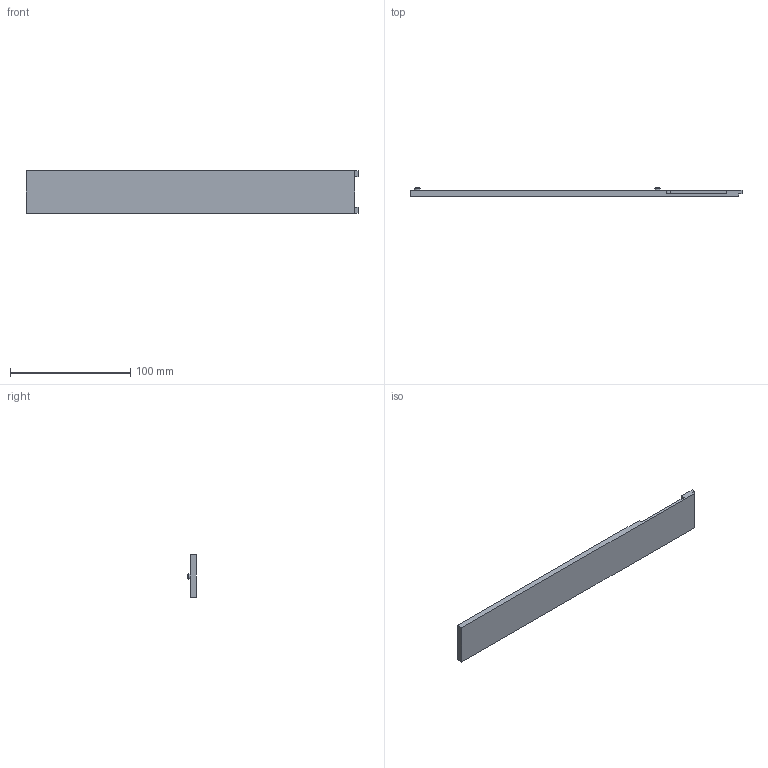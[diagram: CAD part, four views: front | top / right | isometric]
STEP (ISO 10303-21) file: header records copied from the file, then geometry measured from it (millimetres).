
FILE_DESCRIPTION (( 'STEP AP203' ), '1' );
FILE_NAME ('奻殑結.STEP', '2024-01-17T02:07:46', ( '' ), ( '' ), 'SwSTEP 2.0', 'SolidWorks 2014', '' );
FILE_SCHEMA (( 'CONFIG_CONTROL_DESIGN' ));
Length unit declared in the file: millimetre
Products named in the file (1): 奻殑結
Bounding box: 276.5 x 7.2 x 35 mm (x, y, z)
Volume: 42845.2 mm3; surface area: 22494 mm2
Topology: 1 solids, 1 shells, 34 faces, 78 edges, 50 vertices
Faces by surface type: plane 20, cylinder 10, cone 4
Entity records: 1035 total; most frequent: DIRECTION 172, CARTESIAN_POINT 163, ORIENTED_EDGE 156, EDGE_CURVE 78, AXIS2_PLACEMENT_3D 59, VECTOR 54, LINE 54, VERTEX_POINT 50
